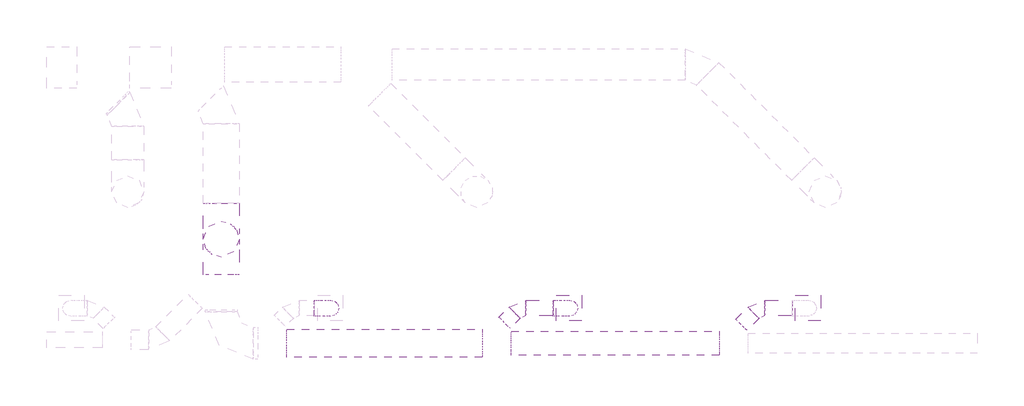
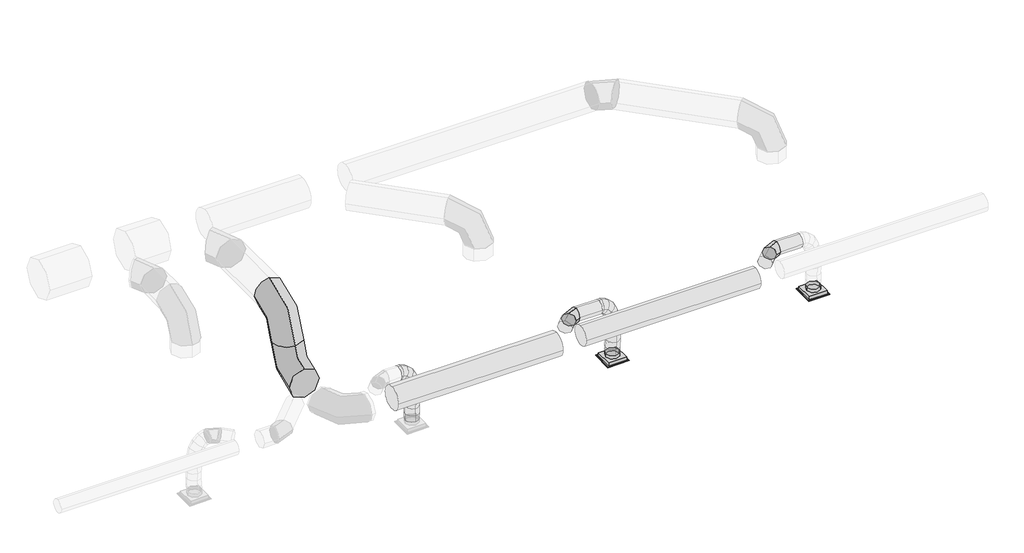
# One storey, part 5 of 33: 8 duct segments, 4 duct fittings, 2 air terminals.
"""IFC4 building model written with IfcOpenShell, lengths in millimetres."""

from ifc_helpers import new_model, si_unit, point, frame, frame_2d, origin, place, context, project, spatial, circle_curve, ellipse_curve, trimmed, segment, composite_curve, outline, extrude, transform, mapped, element, save
from ifc_brep_helpers import plane_surface, cylinder_surface, advanced_brep
from components import air_terminal_0721d01d, round_elbow_1_d_ab3aa7ba, round_elbow_1_d_f1b293c8

model = new_model("IFC4")

# Units and contexts
model_context = context("Model", 3, world=origin())
ifc_project = project(units=[si_unit("LENGTHUNIT", "METRE", prefix="MILLI")], contexts=[model_context])

# Site, building, storey
site = spatial("IfcSite", under=ifc_project)
building = spatial("IfcBuilding", under=site)
storey = spatial("IfcBuildingStorey", under=building, Name="T.O. SLAB - 1ST", Elevation=-25.4)

# Air terminals
placement = place(None, origin())
air_terminal_shape = air_terminal_0721d01d(model_context)
element("IfcAirTerminal", 1, ObjectType="Titus-Round_Neck_Supply_Diffuser-PCS_Surface_Mount : PCS AA-08_12x12", at=placement, inside=storey, context=model_context, shape_type="MappedRepresentation", body=[
    mapped(air_terminal_shape, transform((29749.721449, 6517.7064145, 3022.6), x_axis=(1.0, 0.0, 0.0), y_axis=(0.0, -1.0, 0.0), z_axis=(0.0, 0.0, -1.0))),
])
element("IfcAirTerminal", 2, ObjectType="Titus-Round_Neck_Supply_Diffuser-PCS_Surface_Mount : PCS AA-08_12x12", at=placement, inside=storey, context=model_context, shape_type="MappedRepresentation", body=[
    mapped(air_terminal_shape, transform((26701.721449, 6517.7064145, 3022.6), x_axis=(1.0, 0.0, 0.0), y_axis=(0.0, -1.0, 0.0), z_axis=(0.0, 0.0, -1.0))),
])

# Duct fittings
round_elbow_1_d_shape = round_elbow_1_d_ab3aa7ba(model_context)
element("IfcDuctFitting", 3, ObjectType="Round Elbow : 1 D", at=placement, inside=storey, context=model_context, shape_type="MappedRepresentation", body=[
    mapped(round_elbow_1_d_shape, transform((26065.0050125, 6518.8479651, 3911.6), x_axis=(-1.0, 0.0, 0.0), y_axis=(0.0, -1.0, 0.0), z_axis=(0.0, 0.0, 1.0))),
])
element("IfcDuctFitting", 4, ObjectType="Round Elbow : 1 D", at=placement, inside=storey, context=model_context, shape_type="MappedRepresentation", body=[
    mapped(round_elbow_1_d_shape, transform((29113.0051202, 6518.8480728, 3911.6), x_axis=(-1.0, 0.0, 0.0), y_axis=(0.0, -1.0, 0.0), z_axis=(0.0, 0.0, 1.0))),
])
round_elbow_1_d_2_shape = round_elbow_1_d_f1b293c8(model_context)
element("IfcDuctFitting", 5, ObjectType="Round Elbow : 1 D", at=placement, inside=storey, context=model_context, shape_type="MappedRepresentation", body=[
    mapped(round_elbow_1_d_2_shape, transform((22263.1, 7397.6188638, 4826.0), x_axis=(0.0, -1.0, 0.0), y_axis=(0.0, 0.0, -1.0), z_axis=(1.0, 0.0, 0.0))),
])
element("IfcDuctFitting", 6, ObjectType="Round Elbow : 1 D", at=placement, inside=storey, context=model_context, shape_type="MappedRepresentation", body=[
    mapped(round_elbow_1_d_2_shape, transform((22263.1, 7397.6188638, 3911.6), x_axis=(0.0, 0.0, -1.0), y_axis=(0.0, -1.0, 0.0), z_axis=(-1.0, 0.0, 0.0))),
])

# Duct segments
element("IfcDuctSegment", 7, ObjectType="Flex - Round", at=placement, inside=storey, context=model_context, shape_type="AdvancedBrep", body=[
    advanced_brep(
    [(23450.5216644, 6620.4479651, 3911.6), (23450.5216644, 6518.8479651, 3810.0), (23450.5216644, 6417.2479651, 3911.6), (23450.5216644, 6518.8479651, 4013.2), (23473.4273628, 6620.4479651, 3911.6), (23457.2806618, 6518.8479651, 3810.0), (23473.3581596, 6417.2479651, 3911.6), (23489.5048605, 6518.8479651, 4013.2), (23653.9225437, 6619.3062059, 3117.8057828), (23755.300109, 6517.5044597, 3115.7775468), (23653.5203544, 6416.1066231, 3117.8942172), (23552.1427891, 6517.9083693, 3119.9224532), (23529.5303265, 6620.4087657, 3893.3469294), (23477.8418357, 6518.8335989, 3803.3104326), (23529.3133923, 6417.2088689, 3893.3949936), (23581.0018831, 6518.7840357, 3983.4314904), (23586.4790802, 6620.3037396, 3842.8217784), (23504.2429957, 6518.7849094, 3779.887223), (23586.1429776, 6417.1040626, 3842.9755694), (23668.3790621, 6518.6228929, 3905.9101248), (23624.7804551, 6620.1517489, 3766.3796232), (23528.5253978, 6518.6885499, 3731.424233), (23624.3953894, 6416.9522662, 3766.6311349), (23720.6504468, 6518.4154652, 3801.5865251), (23647.8495135, 6619.9716245, 3670.3638733), (23547.2795954, 6518.5421161, 3653.3673691), (23647.4530644, 6416.7722306, 3670.6627642), (23748.0229825, 6518.201739, 3687.6592684), (23659.0985868, 6619.7821408, 3561.0905884), (23557.4270924, 6518.3711878, 3554.7947747), (23658.7011697, 6416.5827633, 3561.3988814), (23760.372664, 6517.9937163, 3567.6946951), (23661.9309051, 6619.6020763, 3444.8776897), (23560.1094889, 6518.2006546, 3444.7333238), (23661.5339739, 6416.4026679, 3445.1660487), (23763.3553901, 6517.8040895, 3445.3104147), (23659.746654, 6619.4502151, 3328.0477211), (23557.9803931, 6518.0526281, 3330.8534731), (23659.3487903, 6416.2507419, 3328.2862062), (23761.1150512, 6517.6483289, 3325.4804542), (23655.9449734, 6619.3453421, 3216.9287888), (23554.1801141, 6517.9477938, 3219.7755094), (23655.5439778, 6416.1457825, 3217.0757312), (23757.308837, 6517.5433308, 3214.2290106)],
    [
        (0, 1, circle_curve(frame((23450.5216644, 6518.8479651, 3911.6), z_axis=(-1.0, 0.0, 0.0), x_axis=(0.0, 1.0, 0.0)), 101.6)),
        (1, 2, circle_curve(frame((23450.5216644, 6518.8479651, 3911.6), z_axis=(-1.0, 0.0, 0.0), x_axis=(0.0, 1.0, 0.0)), 101.6)),
        (2, 3, circle_curve(frame((23450.5216644, 6518.8479651, 3911.6), z_axis=(-1.0, 0.0, 0.0), x_axis=(0.0, 1.0, 0.0)), 101.6)),
        (3, 0, circle_curve(frame((23450.5216644, 6518.8479651, 3911.6), z_axis=(-1.0, 0.0, 0.0), x_axis=(0.0, 1.0, 0.0)), 101.6)),
        (0, 4),
        (4, 5, ellipse_curve(frame((23473.3927612, 6518.8479651, 3911.6), z_axis=(-0.9876578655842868, 0.0003363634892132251, 0.1566263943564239), x_axis=(-0.15662675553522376, -0.002121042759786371, -0.9876555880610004)), 102.8696308, 101.6)),
        (5, 1),
        (5, 6, ellipse_curve(frame((23473.3927612, 6518.8479651, 3911.6), z_axis=(-0.9876578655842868, 0.0003363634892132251, 0.1566263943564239), x_axis=(-0.15662675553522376, -0.002121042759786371, -0.9876555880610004)), 102.8696308, 101.6)),
        (6, 2),
        (6, 7, ellipse_curve(frame((23473.3927612, 6518.8479651, 3911.6), z_axis=(-0.9876578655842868, 0.0003363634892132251, 0.1566263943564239), x_axis=(-0.15662675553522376, -0.002121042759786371, -0.9876555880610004)), 102.8696308, 101.6)),
        (7, 3),
        (7, 4, ellipse_curve(frame((23473.3927612, 6518.8479651, 3911.6), z_axis=(-0.9876578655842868, 0.0003363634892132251, 0.1566263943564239), x_axis=(-0.15662675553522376, -0.002121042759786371, -0.9876555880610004)), 102.8696308, 101.6)),
        (8, 9, circle_curve(frame((23653.721449, 6517.7064145, 3117.85), z_axis=(-0.020398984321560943, -0.0003947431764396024, -0.999791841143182), x_axis=(0.001979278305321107, 0.999997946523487, -0.0004352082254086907)), 101.6)),
        (9, 10, circle_curve(frame((23653.721449, 6517.7064145, 3117.85), z_axis=(-0.020398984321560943, -0.0003947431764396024, -0.999791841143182), x_axis=(0.001979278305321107, 0.999997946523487, -0.0004352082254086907)), 101.6)),
        (10, 11, circle_curve(frame((23653.721449, 6517.7064145, 3117.85), z_axis=(-0.020398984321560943, -0.0003947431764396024, -0.999791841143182), x_axis=(0.001979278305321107, 0.999997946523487, -0.0004352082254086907)), 101.6)),
        (11, 8, circle_curve(frame((23653.721449, 6517.7064145, 3117.85), z_axis=(-0.020398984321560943, -0.0003947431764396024, -0.999791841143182), x_axis=(0.001979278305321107, 0.999997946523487, -0.0004352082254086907)), 101.6)),
        (4, 12),
        (12, 13, ellipse_curve(frame((23529.4218594, 6518.8088173, 3893.3709615), z_axis=(-0.8677570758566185, 0.0010439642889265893, 0.4969874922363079), x_axis=(-0.49698858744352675, -0.0017516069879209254, -0.8677553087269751)), 103.7853563, 101.6)),
        (13, 5),
        (13, 14, ellipse_curve(frame((23529.4218594, 6518.8088173, 3893.3709615), z_axis=(-0.8677570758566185, 0.0010439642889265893, 0.4969874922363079), x_axis=(-0.49698858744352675, -0.0017516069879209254, -0.8677553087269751)), 103.7853563, 101.6)),
        (14, 6),
        (14, 15, ellipse_curve(frame((23529.4218594, 6518.8088173, 3893.3709615), z_axis=(-0.8677570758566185, 0.0010439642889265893, 0.4969874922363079), x_axis=(-0.49698858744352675, -0.0017516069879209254, -0.8677553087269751)), 103.7853563, 101.6)),
        (15, 7),
        (15, 12, ellipse_curve(frame((23529.4218594, 6518.8088173, 3893.3709615), z_axis=(-0.8677570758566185, 0.0010439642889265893, 0.4969874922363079), x_axis=(-0.49698858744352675, -0.0017516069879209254, -0.8677553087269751)), 103.7853563, 101.6)),
        (12, 16),
        (16, 17, ellipse_curve(frame((23586.3110289, 6518.7039011, 3842.8986739), z_axis=(-0.608993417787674, 0.0016076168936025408, 0.793173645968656), x_axis=(-0.7931752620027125, -0.0010523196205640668, -0.6089925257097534)), 103.4679319, 101.6)),
        (17, 13),
        (17, 18, ellipse_curve(frame((23586.3110289, 6518.7039011, 3842.8986739), z_axis=(-0.608993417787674, 0.0016076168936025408, 0.793173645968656), x_axis=(-0.7931752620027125, -0.0010523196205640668, -0.6089925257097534)), 103.4679319, 101.6)),
        (18, 14),
        (18, 19, ellipse_curve(frame((23586.3110289, 6518.7039011, 3842.8986739), z_axis=(-0.608993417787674, 0.0016076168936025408, 0.793173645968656), x_axis=(-0.7931752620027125, -0.0010523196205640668, -0.6089925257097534)), 103.4679319, 101.6)),
        (19, 15),
        (19, 16, ellipse_curve(frame((23586.3110289, 6518.7039011, 3842.8986739), z_axis=(-0.608993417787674, 0.0016076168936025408, 0.793173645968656), x_axis=(-0.7931752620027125, -0.0010523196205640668, -0.6089925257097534)), 103.4679319, 101.6)),
        (16, 20),
        (20, 21, ellipse_curve(frame((23624.5879223, 6518.5520075, 3766.5053791), z_axis=(-0.3430294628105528, 0.001812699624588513, 0.9393228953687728), x_axis=(-0.9393245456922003, -0.0002034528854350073, -0.34302967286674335)), 102.2678561, 101.6)),
        (21, 17),
        (21, 22, ellipse_curve(frame((23624.5879223, 6518.5520075, 3766.5053791), z_axis=(-0.3430294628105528, 0.001812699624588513, 0.9393228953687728), x_axis=(-0.9393245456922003, -0.0002034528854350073, -0.34302967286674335)), 102.2678561, 101.6)),
        (22, 18),
        (22, 23, ellipse_curve(frame((23624.5879223, 6518.5520075, 3766.5053791), z_axis=(-0.3430294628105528, 0.001812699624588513, 0.9393228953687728), x_axis=(-0.9393245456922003, -0.0002034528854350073, -0.34302967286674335)), 102.2678561, 101.6)),
        (23, 19),
        (23, 20, ellipse_curve(frame((23624.5879223, 6518.5520075, 3766.5053791), z_axis=(-0.3430294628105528, 0.001812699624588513, 0.9393228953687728), x_axis=(-0.9393245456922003, -0.0002034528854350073, -0.34302967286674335)), 102.2678561, 101.6)),
        (20, 24),
        (24, 25, ellipse_curve(frame((23647.6512889, 6518.3719275, 3670.5133188), z_axis=(-0.1683821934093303, 0.001778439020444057, 0.9857201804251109), x_axis=(-0.9857212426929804, 0.0007449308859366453, -0.16838371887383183)), 101.8257799, 101.6)),
        (25, 21),
        (25, 26, ellipse_curve(frame((23647.6512889, 6518.3719275, 3670.5133188), z_axis=(-0.1683821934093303, 0.001778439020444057, 0.9857201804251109), x_axis=(-0.9857212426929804, 0.0007449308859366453, -0.16838371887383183)), 101.8257799, 101.6)),
        (26, 22),
        (26, 27, ellipse_curve(frame((23647.6512889, 6518.3719275, 3670.5133188), z_axis=(-0.1683821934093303, 0.001778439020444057, 0.9857201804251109), x_axis=(-0.9857212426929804, 0.0007449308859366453, -0.16838371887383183)), 101.8257799, 101.6)),
        (27, 23),
        (27, 24, ellipse_curve(frame((23647.6512889, 6518.3719275, 3670.5133188), z_axis=(-0.1683821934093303, 0.001778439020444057, 0.9857201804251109), x_axis=(-0.9857212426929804, 0.0007449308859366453, -0.16838371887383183)), 101.8257799, 101.6)),
        (24, 28),
        (28, 29, ellipse_curve(frame((23658.8998782, 6518.1824521, 3561.2447349), z_axis=(-0.06343230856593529, 0.0016381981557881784, 0.997984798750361), x_axis=(-0.9979833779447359, 0.0022499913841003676, -0.06343591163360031)), 101.6777452, 101.6)),
        (29, 25),
        (29, 30, ellipse_curve(frame((23658.8998782, 6518.1824521, 3561.2447349), z_axis=(-0.06343230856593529, 0.0016381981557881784, 0.997984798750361), x_axis=(-0.9979833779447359, 0.0022499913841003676, -0.06343591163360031)), 101.6777452, 101.6)),
        (30, 26),
        (30, 31, ellipse_curve(frame((23658.8998782, 6518.1824521, 3561.2447349), z_axis=(-0.06343230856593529, 0.0016381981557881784, 0.997984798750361), x_axis=(-0.9979833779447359, 0.0022499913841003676, -0.06343591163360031)), 101.6777452, 101.6)),
        (31, 27),
        (31, 28, ellipse_curve(frame((23658.8998782, 6518.1824521, 3561.2447349), z_axis=(-0.06343230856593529, 0.0016381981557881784, 0.997984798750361), x_axis=(-0.9979833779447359, 0.0022499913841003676, -0.06343591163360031)), 101.6777452, 101.6)),
        (28, 32),
        (32, 33, ellipse_curve(frame((23661.7324395, 6518.0023721, 3445.0218692), z_axis=(-0.0028365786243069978, 0.0014246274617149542, 0.9999949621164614), x_axis=(-0.9999791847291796, 0.0057911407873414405, -0.00284478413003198)), 101.623554, 101.6)),
        (33, 29),
        (33, 34, ellipse_curve(frame((23661.7324395, 6518.0023721, 3445.0218692), z_axis=(-0.0028365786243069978, 0.0014246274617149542, 0.9999949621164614), x_axis=(-0.9999791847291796, 0.0057911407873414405, -0.00284478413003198)), 101.623554, 101.6)),
        (34, 30),
        (34, 35, ellipse_curve(frame((23661.7324395, 6518.0023721, 3445.0218692), z_axis=(-0.0028365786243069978, 0.0014246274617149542, 0.9999949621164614), x_axis=(-0.9999791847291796, 0.0057911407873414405, -0.00284478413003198)), 101.623554, 101.6)),
        (35, 31),
        (35, 32, ellipse_curve(frame((23661.7324395, 6518.0023721, 3445.0218692), z_axis=(-0.0028365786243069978, 0.0014246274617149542, 0.9999949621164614), x_axis=(-0.9999791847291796, 0.0057911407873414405, -0.00284478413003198)), 101.623554, 101.6)),
        (32, 36),
        (36, 37, ellipse_curve(frame((23659.5477222, 6517.8504785, 3328.1669637), z_axis=(0.026443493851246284, 0.0011214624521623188, 0.9996496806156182), x_axis=(-0.9993870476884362, 0.022978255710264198, 0.0264107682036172)), 101.6030551, 101.6)),
        (37, 33),
        (37, 38, ellipse_curve(frame((23659.5477222, 6517.8504785, 3328.1669637), z_axis=(0.026443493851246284, 0.0011214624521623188, 0.9996496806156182), x_axis=(-0.9993870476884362, 0.022978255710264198, 0.0264107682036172)), 101.6030551, 101.6)),
        (38, 34),
        (38, 39, ellipse_curve(frame((23659.5477222, 6517.8504785, 3328.1669637), z_axis=(0.026443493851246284, 0.0011214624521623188, 0.9996496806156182), x_axis=(-0.9993870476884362, 0.022978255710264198, 0.0264107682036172)), 101.6030551, 101.6)),
        (39, 35),
        (39, 36, ellipse_curve(frame((23659.5477222, 6517.8504785, 3328.1669637), z_axis=(0.026443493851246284, 0.0011214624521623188, 0.9996496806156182), x_axis=(-0.9993870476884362, 0.022978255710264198, 0.0264107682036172)), 101.6030551, 101.6)),
        (36, 40),
        (40, 41, ellipse_curve(frame((23655.7444756, 6517.7455623, 3217.00226), z_axis=(0.027296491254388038, 0.0006690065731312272, 0.9996271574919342), x_axis=(0.9988378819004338, 0.039717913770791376, -0.02730152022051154)), 101.6024221, 101.6)),
        (41, 37),
        (41, 42, ellipse_curve(frame((23655.7444756, 6517.7455623, 3217.00226), z_axis=(0.027296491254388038, 0.0006690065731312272, 0.9996271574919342), x_axis=(0.9988378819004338, 0.039717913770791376, -0.02730152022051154)), 101.6024221, 101.6)),
        (42, 38),
        (42, 43, ellipse_curve(frame((23655.7444756, 6517.7455623, 3217.00226), z_axis=(0.027296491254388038, 0.0006690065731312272, 0.9996271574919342), x_axis=(0.9988378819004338, 0.039717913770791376, -0.02730152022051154)), 101.6024221, 101.6)),
        (43, 39),
        (43, 40, ellipse_curve(frame((23655.7444756, 6517.7455623, 3217.00226), z_axis=(0.027296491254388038, 0.0006690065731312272, 0.9996271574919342), x_axis=(0.9988378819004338, 0.039717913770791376, -0.02730152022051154)), 101.6024221, 101.6)),
        (40, 8),
        (11, 41),
        (10, 42),
        (9, 43),
    ],
    [
        plane_surface(frame((23450.5216644, 6518.8479651, 3810.0), z_axis=(-1.0, 0.0, 0.0), x_axis=(0.0, 1.0, 0.0))),
        cylinder_surface(frame((23450.5216644, 6518.8479651, 3911.6), z_axis=(-1.0, 0.0, 0.0), x_axis=(0.0, 1.0, 0.0)), 101.6),
        plane_surface(frame((23653.721449, 6619.3064066, 3117.8098857), z_axis=(-0.02039898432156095, -0.00039474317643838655, -0.999791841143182), x_axis=(0.9997919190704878, -8.054035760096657e-06, -0.020398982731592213))),
        cylinder_surface(frame((23473.3927612, 6518.8479651, 3911.6), z_axis=(-0.9509361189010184, 0.0006644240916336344, 0.3093865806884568), x_axis=(0.0006644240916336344, 0.9999997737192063, -0.00010536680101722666)), 101.6),
        cylinder_surface(frame((23529.4218594, 6518.8088173, 3893.3709615), z_axis=(-0.7480341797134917, 0.001379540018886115, 0.6636587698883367), x_axis=(0.0013847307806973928, 0.9999989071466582, -0.0005179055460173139)), 101.6),
        cylinder_surface(frame((23586.3110289, 6518.7039011, 3842.8986739), z_axis=(-0.44796404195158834, 0.0017776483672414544, 0.8940498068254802), x_axis=(0.0018153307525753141, 0.9999977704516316, -0.0010787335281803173)), 101.6),
        cylinder_surface(frame((23624.5879223, 6518.5520075, 3766.5053791), z_axis=(-0.23361460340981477, 0.001824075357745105, 0.9723275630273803), x_axis=(0.001936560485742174, 0.9999971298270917, -0.0014106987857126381)), 101.6),
        cylinder_surface(frame((23647.6512889, 6518.3719275, 3670.5133188), z_axis=(-0.10240307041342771, 0.0017249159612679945, 0.9947414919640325), x_axis=(0.001957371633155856, 0.9999969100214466, -0.0015325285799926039)), 101.6),
        cylinder_surface(frame((23658.8998782, 6518.1824521, 3561.2447349), z_axis=(-0.02436454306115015, 0.0015489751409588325, 0.9997019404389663), x_axis=(0.0019554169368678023, 0.9999969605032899, -0.0015017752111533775)), 101.6),
        cylinder_surface(frame((23661.7324395, 6518.0023721, 3445.0218692), z_axis=(0.01869270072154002, 0.001299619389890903, 0.9998244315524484), x_axis=(0.0019549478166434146, 0.9999971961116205, -0.001336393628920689)), 101.6),
        cylinder_surface(frame((23659.5477222, 6517.8504785, 3328.1669637), z_axis=(0.03419269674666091, 0.0009432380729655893, 0.9994148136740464), x_axis=(0.0019635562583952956, 0.9999975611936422, -0.0010109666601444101)), 101.6),
        cylinder_surface(frame((23655.7444756, 6517.7455623, 3217.00226), z_axis=(0.020398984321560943, 0.0003947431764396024, 0.999791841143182), x_axis=(0.001979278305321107, 0.999997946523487, -0.0004352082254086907)), 101.6),
    ],
    [
        (0, [[1, 2, 3, 4]]),
        (1, [[-1, 5, 6, 7]]),
        (1, [[-2, -7, 8, 9]]),
        (1, [[-3, -9, 10, 11]]),
        (1, [[-4, -11, 12, -5]]),
        (2, [[13, 14, 15, 16]]),
        (3, [[-6, 17, 18, 19]]),
        (3, [[-8, -19, 20, 21]]),
        (3, [[-10, -21, 22, 23]]),
        (3, [[-12, -23, 24, -17]]),
        (4, [[-18, 25, 26, 27]]),
        (4, [[-20, -27, 28, 29]]),
        (4, [[-22, -29, 30, 31]]),
        (4, [[-24, -31, 32, -25]]),
        (5, [[-26, 33, 34, 35]]),
        (5, [[-28, -35, 36, 37]]),
        (5, [[-30, -37, 38, 39]]),
        (5, [[-32, -39, 40, -33]]),
        (6, [[-34, 41, 42, 43]]),
        (6, [[-36, -43, 44, 45]]),
        (6, [[-38, -45, 46, 47]]),
        (6, [[-40, -47, 48, -41]]),
        (7, [[-42, 49, 50, 51]]),
        (7, [[-44, -51, 52, 53]]),
        (7, [[-46, -53, 54, 55]]),
        (7, [[-48, -55, 56, -49]]),
        (8, [[-50, 57, 58, 59]]),
        (8, [[-52, -59, 60, 61]]),
        (8, [[-54, -61, 62, 63]]),
        (8, [[-56, -63, 64, -57]]),
        (9, [[-58, 65, 66, 67]]),
        (9, [[-60, -67, 68, 69]]),
        (9, [[-62, -69, 70, 71]]),
        (9, [[-64, -71, 72, -65]]),
        (10, [[-66, 73, 74, 75]]),
        (10, [[-68, -75, 76, 77]]),
        (10, [[-70, -77, 78, 79]]),
        (10, [[-72, -79, 80, -73]]),
        (11, [[-74, 81, -16, 82]]),
        (11, [[-76, -82, -15, 83]]),
        (11, [[-78, -83, -14, 84]]),
        (11, [[-80, -84, -13, -81]]),
    ],
),
])
element("IfcDuctSegment", 8, ObjectType="Flex - Round", at=placement, inside=storey, context=model_context, shape_type="AdvancedBrep", body=[
    advanced_brep(
    [(26498.5216644, 6620.4479651, 3911.6), (26498.5216644, 6518.8479651, 3810.0), (26498.5216644, 6417.2479651, 3911.6), (26498.5216644, 6518.8479651, 4013.2), (26521.4273628, 6620.4479651, 3911.6), (26505.2806618, 6518.8479651, 3810.0), (26521.3581596, 6417.2479651, 3911.6), (26537.5048605, 6518.8479651, 4013.2), (26701.9225437, 6619.3062059, 3117.8057828), (26803.300109, 6517.5044597, 3115.7775468), (26701.5203544, 6416.1066231, 3117.8942172), (26600.1427891, 6517.9083693, 3119.9224532), (26577.5303265, 6620.4087657, 3893.3469294), (26525.8418357, 6518.8335989, 3803.3104326), (26577.3133923, 6417.2088689, 3893.3949936), (26629.0018831, 6518.7840357, 3983.4314904), (26634.4790802, 6620.3037396, 3842.8217784), (26552.2429957, 6518.7849094, 3779.887223), (26634.1429776, 6417.1040626, 3842.9755694), (26716.3790621, 6518.6228929, 3905.9101248), (26672.7804551, 6620.1517489, 3766.3796232), (26576.5253978, 6518.6885499, 3731.424233), (26672.3953894, 6416.9522662, 3766.6311349), (26768.6504468, 6518.4154652, 3801.5865251), (26695.8495135, 6619.9716245, 3670.3638733), (26595.2795954, 6518.5421161, 3653.3673691), (26695.4530644, 6416.7722306, 3670.6627642), (26796.0229825, 6518.201739, 3687.6592684), (26707.0985868, 6619.7821408, 3561.0905884), (26605.4270924, 6518.3711878, 3554.7947747), (26706.7011697, 6416.5827633, 3561.3988814), (26808.372664, 6517.9937163, 3567.6946951), (26709.9309051, 6619.6020763, 3444.8776897), (26608.1094889, 6518.2006546, 3444.7333238), (26709.5339739, 6416.4026679, 3445.1660487), (26811.3553901, 6517.8040895, 3445.3104147), (26707.746654, 6619.4502151, 3328.0477211), (26605.9803931, 6518.0526281, 3330.8534731), (26707.3487903, 6416.2507419, 3328.2862062), (26809.1150512, 6517.6483289, 3325.4804542), (26703.9449734, 6619.3453421, 3216.9287888), (26602.1801141, 6517.9477938, 3219.7755094), (26703.5439778, 6416.1457825, 3217.0757312), (26805.308837, 6517.5433308, 3214.2290106)],
    [
        (0, 1, circle_curve(frame((26498.5216644, 6518.8479651, 3911.6), z_axis=(-1.0, 0.0, 0.0), x_axis=(0.0, 1.0, 0.0)), 101.6)),
        (1, 2, circle_curve(frame((26498.5216644, 6518.8479651, 3911.6), z_axis=(-1.0, 0.0, 0.0), x_axis=(0.0, 1.0, 0.0)), 101.6)),
        (2, 3, circle_curve(frame((26498.5216644, 6518.8479651, 3911.6), z_axis=(-1.0, 0.0, 0.0), x_axis=(0.0, 1.0, 0.0)), 101.6)),
        (3, 0, circle_curve(frame((26498.5216644, 6518.8479651, 3911.6), z_axis=(-1.0, 0.0, 0.0), x_axis=(0.0, 1.0, 0.0)), 101.6)),
        (0, 4),
        (4, 5, ellipse_curve(frame((26521.3927612, 6518.8479651, 3911.6), z_axis=(-0.9876578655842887, 0.0003363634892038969, 0.15662639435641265), x_axis=(-0.1566267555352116, -0.0021210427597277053, -0.9876555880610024)), 102.8696308, 101.6)),
        (5, 1),
        (5, 6, ellipse_curve(frame((26521.3927612, 6518.8479651, 3911.6), z_axis=(-0.9876578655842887, 0.0003363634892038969, 0.15662639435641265), x_axis=(-0.1566267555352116, -0.0021210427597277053, -0.9876555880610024)), 102.8696308, 101.6)),
        (6, 2),
        (6, 7, ellipse_curve(frame((26521.3927612, 6518.8479651, 3911.6), z_axis=(-0.9876578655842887, 0.0003363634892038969, 0.15662639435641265), x_axis=(-0.1566267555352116, -0.0021210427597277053, -0.9876555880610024)), 102.8696308, 101.6)),
        (7, 3),
        (7, 4, ellipse_curve(frame((26521.3927612, 6518.8479651, 3911.6), z_axis=(-0.9876578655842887, 0.0003363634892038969, 0.15662639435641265), x_axis=(-0.1566267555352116, -0.0021210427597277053, -0.9876555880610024)), 102.8696308, 101.6)),
        (8, 9, circle_curve(frame((26701.721449, 6517.7064145, 3117.85), z_axis=(-0.020398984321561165, -0.00039474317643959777, -0.9997918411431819), x_axis=(0.001979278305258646, 0.9999979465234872, -0.0004352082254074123)), 101.6)),
        (9, 10, circle_curve(frame((26701.721449, 6517.7064145, 3117.85), z_axis=(-0.020398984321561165, -0.00039474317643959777, -0.9997918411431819), x_axis=(0.001979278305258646, 0.9999979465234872, -0.0004352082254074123)), 101.6)),
        (10, 11, circle_curve(frame((26701.721449, 6517.7064145, 3117.85), z_axis=(-0.020398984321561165, -0.00039474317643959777, -0.9997918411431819), x_axis=(0.001979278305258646, 0.9999979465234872, -0.0004352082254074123)), 101.6)),
        (11, 8, circle_curve(frame((26701.721449, 6517.7064145, 3117.85), z_axis=(-0.020398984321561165, -0.00039474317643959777, -0.9997918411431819), x_axis=(0.001979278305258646, 0.9999979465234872, -0.0004352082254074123)), 101.6)),
        (4, 12),
        (12, 13, ellipse_curve(frame((26577.4218594, 6518.8088173, 3893.3709615), z_axis=(-0.8677570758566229, 0.0010439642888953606, 0.49698749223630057), x_axis=(-0.496988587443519, -0.0017516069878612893, -0.8677553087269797)), 103.7853563, 101.6)),
        (13, 5),
        (13, 14, ellipse_curve(frame((26577.4218594, 6518.8088173, 3893.3709615), z_axis=(-0.8677570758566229, 0.0010439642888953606, 0.49698749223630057), x_axis=(-0.496988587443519, -0.0017516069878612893, -0.8677553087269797)), 103.7853563, 101.6)),
        (14, 6),
        (14, 15, ellipse_curve(frame((26577.4218594, 6518.8088173, 3893.3709615), z_axis=(-0.8677570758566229, 0.0010439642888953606, 0.49698749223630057), x_axis=(-0.496988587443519, -0.0017516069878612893, -0.8677553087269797)), 103.7853563, 101.6)),
        (15, 7),
        (15, 12, ellipse_curve(frame((26577.4218594, 6518.8088173, 3893.3709615), z_axis=(-0.8677570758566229, 0.0010439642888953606, 0.49698749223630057), x_axis=(-0.496988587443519, -0.0017516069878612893, -0.8677553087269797)), 103.7853563, 101.6)),
        (12, 16),
        (16, 17, ellipse_curve(frame((26634.3110289, 6518.7039011, 3842.8986739), z_axis=(-0.6089934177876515, 0.0016076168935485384, 0.7931736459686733), x_axis=(-0.79317526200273, -0.001052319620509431, -0.6089925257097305)), 103.4679319, 101.6)),
        (17, 13),
        (17, 18, ellipse_curve(frame((26634.3110289, 6518.7039011, 3842.8986739), z_axis=(-0.6089934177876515, 0.0016076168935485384, 0.7931736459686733), x_axis=(-0.79317526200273, -0.001052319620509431, -0.6089925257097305)), 103.4679319, 101.6)),
        (18, 14),
        (18, 19, ellipse_curve(frame((26634.3110289, 6518.7039011, 3842.8986739), z_axis=(-0.6089934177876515, 0.0016076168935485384, 0.7931736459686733), x_axis=(-0.79317526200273, -0.001052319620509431, -0.6089925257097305)), 103.4679319, 101.6)),
        (19, 15),
        (19, 16, ellipse_curve(frame((26634.3110289, 6518.7039011, 3842.8986739), z_axis=(-0.6089934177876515, 0.0016076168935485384, 0.7931736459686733), x_axis=(-0.79317526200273, -0.001052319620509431, -0.6089925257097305)), 103.4679319, 101.6)),
        (16, 20),
        (20, 21, ellipse_curve(frame((26672.5879223, 6518.5520075, 3766.5053791), z_axis=(-0.34302946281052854, 0.0018126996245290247, 0.9393228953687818), x_axis=(-0.939324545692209, -0.00020345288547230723, -0.3430296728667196)), 102.2678561, 101.6)),
        (21, 17),
        (21, 22, ellipse_curve(frame((26672.5879223, 6518.5520075, 3766.5053791), z_axis=(-0.34302946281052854, 0.0018126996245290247, 0.9393228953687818), x_axis=(-0.939324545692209, -0.00020345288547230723, -0.3430296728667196)), 102.2678561, 101.6)),
        (22, 18),
        (22, 23, ellipse_curve(frame((26672.5879223, 6518.5520075, 3766.5053791), z_axis=(-0.34302946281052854, 0.0018126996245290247, 0.9393228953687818), x_axis=(-0.939324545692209, -0.00020345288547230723, -0.3430296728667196)), 102.2678561, 101.6)),
        (23, 19),
        (23, 20, ellipse_curve(frame((26672.5879223, 6518.5520075, 3766.5053791), z_axis=(-0.34302946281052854, 0.0018126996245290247, 0.9393228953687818), x_axis=(-0.939324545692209, -0.00020345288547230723, -0.3430296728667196)), 102.2678561, 101.6)),
        (20, 24),
        (24, 25, ellipse_curve(frame((26695.6512889, 6518.3719275, 3670.5133188), z_axis=(-0.168382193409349, 0.001778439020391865, 0.9857201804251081), x_axis=(-0.9857212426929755, 0.0007449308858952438, -0.1683837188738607)), 101.8257799, 101.6)),
        (25, 21),
        (25, 26, ellipse_curve(frame((26695.6512889, 6518.3719275, 3670.5133188), z_axis=(-0.168382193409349, 0.001778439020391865, 0.9857201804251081), x_axis=(-0.9857212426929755, 0.0007449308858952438, -0.1683837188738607)), 101.8257799, 101.6)),
        (26, 22),
        (26, 27, ellipse_curve(frame((26695.6512889, 6518.3719275, 3670.5133188), z_axis=(-0.168382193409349, 0.001778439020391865, 0.9857201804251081), x_axis=(-0.9857212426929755, 0.0007449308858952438, -0.1683837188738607)), 101.8257799, 101.6)),
        (27, 23),
        (27, 24, ellipse_curve(frame((26695.6512889, 6518.3719275, 3670.5133188), z_axis=(-0.168382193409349, 0.001778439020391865, 0.9857201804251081), x_axis=(-0.9857212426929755, 0.0007449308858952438, -0.1683837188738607)), 101.8257799, 101.6)),
        (24, 28),
        (28, 29, ellipse_curve(frame((26706.8998782, 6518.1824521, 3561.2447349), z_axis=(-0.06343230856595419, 0.0016381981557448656, 0.9979847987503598), x_axis=(-0.997983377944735, 0.002249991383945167, -0.06343591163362)), 101.6777452, 101.6)),
        (29, 25),
        (29, 30, ellipse_curve(frame((26706.8998782, 6518.1824521, 3561.2447349), z_axis=(-0.06343230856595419, 0.0016381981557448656, 0.9979847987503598), x_axis=(-0.997983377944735, 0.002249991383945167, -0.06343591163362)), 101.6777452, 101.6)),
        (30, 26),
        (30, 31, ellipse_curve(frame((26706.8998782, 6518.1824521, 3561.2447349), z_axis=(-0.06343230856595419, 0.0016381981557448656, 0.9979847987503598), x_axis=(-0.997983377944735, 0.002249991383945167, -0.06343591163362)), 101.6777452, 101.6)),
        (31, 27),
        (31, 28, ellipse_curve(frame((26706.8998782, 6518.1824521, 3561.2447349), z_axis=(-0.06343230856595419, 0.0016381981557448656, 0.9979847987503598), x_axis=(-0.997983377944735, 0.002249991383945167, -0.06343591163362)), 101.6777452, 101.6)),
        (28, 32),
        (32, 33, ellipse_curve(frame((26709.7324395, 6518.0023721, 3445.0218692), z_axis=(-0.002836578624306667, 0.001424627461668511, 0.9999949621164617), x_axis=(-0.9999791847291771, 0.005791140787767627, -0.002844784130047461)), 101.623554, 101.6)),
        (33, 29),
        (33, 34, ellipse_curve(frame((26709.7324395, 6518.0023721, 3445.0218692), z_axis=(-0.002836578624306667, 0.001424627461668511, 0.9999949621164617), x_axis=(-0.9999791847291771, 0.005791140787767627, -0.002844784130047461)), 101.623554, 101.6)),
        (34, 30),
        (34, 35, ellipse_curve(frame((26709.7324395, 6518.0023721, 3445.0218692), z_axis=(-0.002836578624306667, 0.001424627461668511, 0.9999949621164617), x_axis=(-0.9999791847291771, 0.005791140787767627, -0.002844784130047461)), 101.623554, 101.6)),
        (35, 31),
        (35, 32, ellipse_curve(frame((26709.7324395, 6518.0023721, 3445.0218692), z_axis=(-0.002836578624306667, 0.001424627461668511, 0.9999949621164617), x_axis=(-0.9999791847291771, 0.005791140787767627, -0.002844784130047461)), 101.623554, 101.6)),
        (32, 36),
        (36, 37, ellipse_curve(frame((26707.5477222, 6517.8504785, 3328.1669637), z_axis=(0.026443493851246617, 0.0011214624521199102, 0.9996496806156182), x_axis=(-0.9993870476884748, 0.022978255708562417, 0.026410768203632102)), 101.6030551, 101.6)),
        (37, 33),
        (37, 38, ellipse_curve(frame((26707.5477222, 6517.8504785, 3328.1669637), z_axis=(0.026443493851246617, 0.0011214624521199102, 0.9996496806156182), x_axis=(-0.9993870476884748, 0.022978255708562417, 0.026410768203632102)), 101.6030551, 101.6)),
        (38, 34),
        (38, 39, ellipse_curve(frame((26707.5477222, 6517.8504785, 3328.1669637), z_axis=(0.026443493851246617, 0.0011214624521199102, 0.9996496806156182), x_axis=(-0.9993870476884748, 0.022978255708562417, 0.026410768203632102)), 101.6030551, 101.6)),
        (39, 35),
        (39, 36, ellipse_curve(frame((26707.5477222, 6517.8504785, 3328.1669637), z_axis=(0.026443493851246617, 0.0011214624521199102, 0.9996496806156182), x_axis=(-0.9993870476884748, 0.022978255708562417, 0.026410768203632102)), 101.6030551, 101.6)),
        (36, 40),
        (40, 41, ellipse_curve(frame((26703.7444756, 6517.7455623, 3217.00226), z_axis=(0.02729649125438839, 0.0006690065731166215, 0.9996271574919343), x_axis=(0.998837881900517, 0.03971791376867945, -0.027301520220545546)), 101.6024221, 101.6)),
        (41, 37),
        (41, 42, ellipse_curve(frame((26703.7444756, 6517.7455623, 3217.00226), z_axis=(0.02729649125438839, 0.0006690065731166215, 0.9996271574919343), x_axis=(0.998837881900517, 0.03971791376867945, -0.027301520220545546)), 101.6024221, 101.6)),
        (42, 38),
        (42, 43, ellipse_curve(frame((26703.7444756, 6517.7455623, 3217.00226), z_axis=(0.02729649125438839, 0.0006690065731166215, 0.9996271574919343), x_axis=(0.998837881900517, 0.03971791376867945, -0.027301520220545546)), 101.6024221, 101.6)),
        (43, 39),
        (43, 40, ellipse_curve(frame((26703.7444756, 6517.7455623, 3217.00226), z_axis=(0.02729649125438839, 0.0006690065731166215, 0.9996271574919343), x_axis=(0.998837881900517, 0.03971791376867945, -0.027301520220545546)), 101.6024221, 101.6)),
        (40, 8),
        (11, 41),
        (10, 42),
        (9, 43),
    ],
    [
        plane_surface(frame((26498.5216644, 6518.8479651, 3810.0), z_axis=(-1.0, 0.0, 0.0), x_axis=(0.0, 1.0, 0.0))),
        cylinder_surface(frame((26498.5216644, 6518.8479651, 3911.6), z_axis=(-1.0, 0.0, 0.0), x_axis=(0.0, 1.0, 0.0)), 101.6),
        plane_surface(frame((26701.721449, 6619.3064066, 3117.8098857), z_axis=(-0.02039898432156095, -0.00039474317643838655, -0.999791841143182), x_axis=(0.9997919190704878, -8.054035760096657e-06, -0.020398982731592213))),
        cylinder_surface(frame((26521.3927612, 6518.8479651, 3911.6), z_axis=(-0.9509361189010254, 0.0006644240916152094, 0.30938658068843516), x_axis=(0.0006644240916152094, 0.9999997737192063, -0.00010536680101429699)), 101.6),
        cylinder_surface(frame((26577.4218594, 6518.8088173, 3893.3709615), z_axis=(-0.748034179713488, 0.0013795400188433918, 0.6636587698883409), x_axis=(0.0013847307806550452, 0.9999989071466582, -0.0005179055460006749)), 101.6),
        cylinder_surface(frame((26634.3110289, 6518.7039011, 3842.8986739), z_axis=(-0.4479640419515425, 0.0017776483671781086, 0.894049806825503), x_axis=(0.001815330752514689, 0.9999977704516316, -0.0010787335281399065)), 101.6),
        cylinder_surface(frame((26672.5879223, 6518.5520075, 3766.5053791), z_axis=(-0.23361460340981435, 0.0018240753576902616, 0.9723275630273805), x_axis=(0.001936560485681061, 0.9999971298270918, -0.0014106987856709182)), 101.6),
        cylinder_surface(frame((26695.6512889, 6518.3719275, 3670.5133188), z_axis=(-0.10240307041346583, 0.0017249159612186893, 0.9947414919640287), x_axis=(0.001957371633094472, 0.999996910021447, -0.0015325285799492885)), 101.6),
        cylinder_surface(frame((26706.8998782, 6518.1824521, 3561.2447349), z_axis=(-0.02436454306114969, 0.0015489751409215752, 0.9997019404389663), x_axis=(0.001955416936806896, 0.9999969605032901, -0.0015017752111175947)), 101.6),
        cylinder_surface(frame((26709.7324395, 6518.0023721, 3445.0218692), z_axis=(0.01869270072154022, 0.001299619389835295, 0.9998244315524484), x_axis=(0.001954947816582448, 0.9999971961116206, -0.001336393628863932)), 101.6),
        cylinder_surface(frame((26707.5477222, 6517.8504785, 3328.1669637), z_axis=(0.03419269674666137, 0.0009432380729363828, 0.9994148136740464), x_axis=(0.0019635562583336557, 0.9999975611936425, -0.0010109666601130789)), 101.6),
        cylinder_surface(frame((26703.7444756, 6517.7455623, 3217.00226), z_axis=(0.02039898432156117, 0.0003947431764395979, 0.9997918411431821), x_axis=(0.001979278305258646, 0.9999979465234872, -0.0004352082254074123)), 101.6),
    ],
    [
        (0, [[1, 2, 3, 4]]),
        (1, [[-1, 5, 6, 7]]),
        (1, [[-2, -7, 8, 9]]),
        (1, [[-3, -9, 10, 11]]),
        (1, [[-4, -11, 12, -5]]),
        (2, [[13, 14, 15, 16]]),
        (3, [[-6, 17, 18, 19]]),
        (3, [[-8, -19, 20, 21]]),
        (3, [[-10, -21, 22, 23]]),
        (3, [[-12, -23, 24, -17]]),
        (4, [[-18, 25, 26, 27]]),
        (4, [[-20, -27, 28, 29]]),
        (4, [[-22, -29, 30, 31]]),
        (4, [[-24, -31, 32, -25]]),
        (5, [[-26, 33, 34, 35]]),
        (5, [[-28, -35, 36, 37]]),
        (5, [[-30, -37, 38, 39]]),
        (5, [[-32, -39, 40, -33]]),
        (6, [[-34, 41, 42, 43]]),
        (6, [[-36, -43, 44, 45]]),
        (6, [[-38, -45, 46, 47]]),
        (6, [[-40, -47, 48, -41]]),
        (7, [[-42, 49, 50, 51]]),
        (7, [[-44, -51, 52, 53]]),
        (7, [[-46, -53, 54, 55]]),
        (7, [[-48, -55, 56, -49]]),
        (8, [[-50, 57, 58, 59]]),
        (8, [[-52, -59, 60, 61]]),
        (8, [[-54, -61, 62, 63]]),
        (8, [[-56, -63, 64, -57]]),
        (9, [[-58, 65, 66, 67]]),
        (9, [[-60, -67, 68, 69]]),
        (9, [[-62, -69, 70, 71]]),
        (9, [[-64, -71, 72, -65]]),
        (10, [[-66, 73, 74, 75]]),
        (10, [[-68, -75, 76, 77]]),
        (10, [[-70, -77, 78, 79]]),
        (10, [[-72, -79, 80, -73]]),
        (11, [[-74, 81, -16, 82]]),
        (11, [[-76, -82, -15, 83]]),
        (11, [[-78, -83, -14, 84]]),
        (11, [[-80, -84, -13, -81]]),
    ],
),
])
element("IfcDuctSegment", 9, ObjectType="Taps", at=placement, inside=storey, context=model_context, shape_type="SweptSolid", body=[
    extrude(outline(composite_curve([segment(trimmed(circle_curve(frame_2d((6067.3602571, 3911.6)), 177.8), [point((5889.5602571, 3911.6))], [point((6067.3602571, 4089.4))], False, "CARTESIAN"), True, "CONTINUOUS"), segment(trimmed(circle_curve(frame_2d((6067.3602571, 3911.6)), 177.8), [point((6067.3602571, 4089.4))], [point((6245.1602571, 3911.6))], False, "CARTESIAN"), True, "CONTINUOUS"), segment(trimmed(circle_curve(frame_2d((6067.3602571, 3911.6)), 177.8), [point((6245.1602571, 3911.6))], [point((6067.3602571, 3733.8))], False, "CARTESIAN"), True, "CONTINUOUS"), segment(trimmed(circle_curve(frame_2d((6067.3602571, 3911.6)), 177.8), [point((6067.3602571, 3733.8))], [point((5889.5602571, 3911.6))], False, "CARTESIAN"), True, "CONTINUOUS")], self_intersect=False)), frame((23097.3681665, 0.0, 0.0), z_axis=(1.0, 0.0, 0.0), x_axis=(0.0, 1.0, 0.0)), (0.0, 0.0, 1.0), 2495.9827039),
])
element("IfcDuctSegment", 10, ObjectType="Taps", at=placement, inside=storey, context=model_context, shape_type="SweptSolid", body=[
    extrude(outline(composite_curve([segment(trimmed(circle_curve(frame_2d((0.0, 101.6)), 101.6), [point((101.6, 101.6))], [point((0.0, 0.0))], False, "CARTESIAN"), True, "CONTINUOUS"), segment(trimmed(circle_curve(frame_2d((0.0, 101.6)), 101.6), [point((0.0, 0.0))], [point((-101.6, 101.6))], False, "CARTESIAN"), True, "CONTINUOUS"), segment(trimmed(circle_curve(frame_2d((0.0, 101.6)), 101.6), [point((-101.6, 101.6))], [point((0.0, 203.2))], False, "CARTESIAN"), True, "CONTINUOUS"), segment(trimmed(circle_curve(frame_2d((0.0, 101.6)), 101.6), [point((0.0, 203.2))], [point((101.6, 101.6))], False, "CARTESIAN"), True, "CONTINUOUS")], self_intersect=False)), frame((25877.162714, 6331.0056667, 4013.2), z_axis=(0.7071067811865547, 0.7071067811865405, 0.0), x_axis=(0.7071067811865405, -0.7071067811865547, 0.0)), (0.0, 0.0, 1.0), 181.4809301),
])
element("IfcDuctSegment", 11, ObjectType="Taps", at=placement, inside=storey, context=model_context, shape_type="SweptSolid", body=[
    extrude(outline(composite_curve([segment(trimmed(circle_curve(frame_2d((6518.8479651, 3911.6)), 101.6), [point((6417.2479651, 3911.6))], [point((6518.8479651, 4013.2))], False, "CARTESIAN"), True, "CONTINUOUS"), segment(trimmed(circle_curve(frame_2d((6518.8479651, 3911.6)), 101.6), [point((6518.8479651, 4013.2))], [point((6620.4479651, 3911.6))], False, "CARTESIAN"), True, "CONTINUOUS"), segment(trimmed(circle_curve(frame_2d((6518.8479651, 3911.6)), 101.6), [point((6620.4479651, 3911.6))], [point((6518.8479651, 3810.0))], False, "CARTESIAN"), True, "CONTINUOUS"), segment(trimmed(circle_curve(frame_2d((6518.8479651, 3911.6)), 101.6), [point((6518.8479651, 3810.0))], [point((6417.2479651, 3911.6))], False, "CARTESIAN"), True, "CONTINUOUS")], self_intersect=False)), frame((26149.1732083, 0.0, 0.0), z_axis=(1.0, 0.0, 0.0), x_axis=(0.0, 1.0, 0.0)), (0.0, 0.0, 1.0), 349.3484561),
])
element("IfcDuctSegment", 12, ObjectType="Taps", at=placement, inside=storey, context=model_context, shape_type="SweptSolid", body=[
    extrude(outline(composite_curve([segment(trimmed(circle_curve(frame_2d((6067.3602571, 3911.6)), 152.4), [point((5914.9602571, 3911.6))], [point((6067.3602571, 4064.0))], False, "CARTESIAN"), True, "CONTINUOUS"), segment(trimmed(circle_curve(frame_2d((6067.3602571, 3911.6)), 152.4), [point((6067.3602571, 4064.0))], [point((6219.7602571, 3911.6))], False, "CARTESIAN"), True, "CONTINUOUS"), segment(trimmed(circle_curve(frame_2d((6067.3602571, 3911.6)), 152.4), [point((6219.7602571, 3911.6))], [point((6067.3602571, 3759.2))], False, "CARTESIAN"), True, "CONTINUOUS"), segment(trimmed(circle_curve(frame_2d((6067.3602571, 3911.6)), 152.4), [point((6067.3602571, 3759.2))], [point((5914.9602571, 3911.6))], False, "CARTESIAN"), True, "CONTINUOUS")], self_intersect=False)), frame((25963.8837385, 0.0, 0.0), z_axis=(1.0, 0.0, 0.0), x_axis=(0.0, 1.0, 0.0)), (0.0, 0.0, 1.0), 2652.0671318),
])
element("IfcDuctSegment", 13, ObjectType="Taps", at=placement, inside=storey, context=model_context, shape_type="SweptSolid", body=[
    extrude(outline(composite_curve([segment(trimmed(circle_curve(frame_2d((0.0, 101.6)), 101.6), [point((101.6, 101.6))], [point((0.0, 0.0))], False, "CARTESIAN"), True, "CONTINUOUS"), segment(trimmed(circle_curve(frame_2d((0.0, 101.6)), 101.6), [point((0.0, 0.0))], [point((-101.6, 101.6))], False, "CARTESIAN"), True, "CONTINUOUS"), segment(trimmed(circle_curve(frame_2d((0.0, 101.6)), 101.6), [point((-101.6, 101.6))], [point((0.0, 203.2))], False, "CARTESIAN"), True, "CONTINUOUS"), segment(trimmed(circle_curve(frame_2d((0.0, 101.6)), 101.6), [point((0.0, 203.2))], [point((101.6, 101.6))], False, "CARTESIAN"), True, "CONTINUOUS")], self_intersect=False)), frame((28899.762714, 6305.6056667, 4013.2), z_axis=(0.7071067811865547, 0.7071067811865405, 0.0), x_axis=(0.7071067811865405, -0.7071067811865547, 0.0)), (0.0, 0.0, 1.0), 217.4021069),
])
element("IfcDuctSegment", 14, ObjectType="Taps", at=placement, inside=storey, context=model_context, shape_type="SweptSolid", body=[
    extrude(outline(composite_curve([segment(trimmed(circle_curve(frame_2d((6518.8480728, 3911.6)), 101.6), [point((6417.2480728, 3911.6))], [point((6518.8480728, 4013.2))], False, "CARTESIAN"), True, "CONTINUOUS"), segment(trimmed(circle_curve(frame_2d((6518.8480728, 3911.6)), 101.6), [point((6518.8480728, 4013.2))], [point((6620.4480728, 3911.6))], False, "CARTESIAN"), True, "CONTINUOUS"), segment(trimmed(circle_curve(frame_2d((6518.8480728, 3911.6)), 101.6), [point((6620.4480728, 3911.6))], [point((6518.8480728, 3810.0))], False, "CARTESIAN"), True, "CONTINUOUS"), segment(trimmed(circle_curve(frame_2d((6518.8480728, 3911.6)), 101.6), [point((6518.8480728, 3810.0))], [point((6417.2480728, 3911.6))], False, "CARTESIAN"), True, "CONTINUOUS")], self_intersect=False)), frame((29197.173316, 0.0, 0.0), z_axis=(1.0, 0.0, 0.0), x_axis=(0.0, 1.0, 0.0)), (0.0, 0.0, 1.0), 349.3483484),
])

save(model, "model.ifc")
